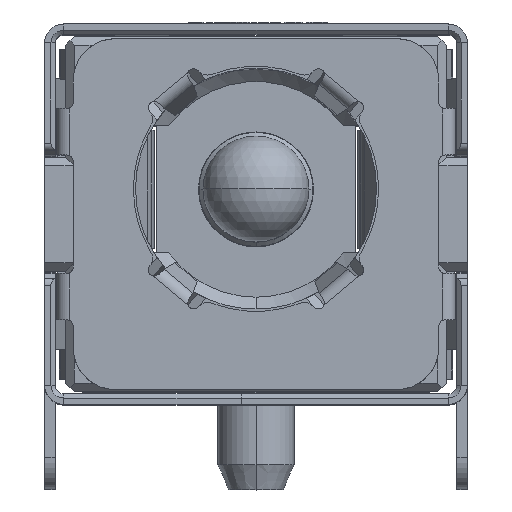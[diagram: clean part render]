
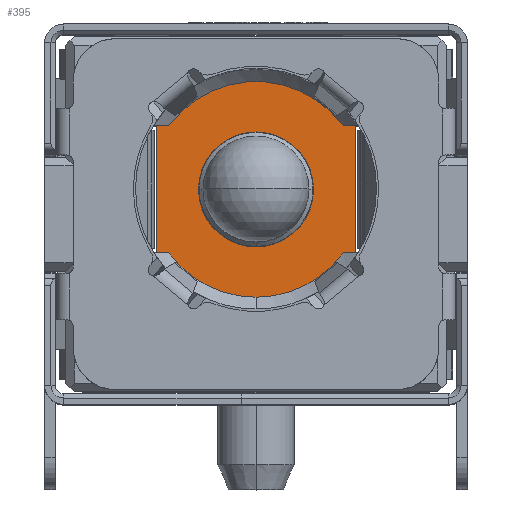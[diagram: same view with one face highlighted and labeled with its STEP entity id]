
A CAD part, top view. The second image highlights one B-rep face of the part: STEP entity #395.
In plain terms, the highlighted planar face has unit normal (0, 0, 1).
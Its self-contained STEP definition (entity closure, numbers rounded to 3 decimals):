
#395 = ADVANCED_FACE ( 'NONE', ( #17485, #45524 ), #24620, .T. ) ;
#982 = VERTEX_POINT ( 'NONE', #16235 ) ;
#1696 = ORIENTED_EDGE ( 'NONE', *, *, #10049, .T. ) ;
#2175 = VERTEX_POINT ( 'NONE', #29098 ) ;
#2736 = VERTEX_POINT ( 'NONE', #7429 ) ;
#3791 = DIRECTION ( 'NONE',  ( 0., 0., -1. ) ) ;
#4372 = CIRCLE ( 'NONE', #5737, 2.55 ) ;
#4809 = VECTOR ( 'NONE', #31012, 1000. ) ;
#5737 = AXIS2_PLACEMENT_3D ( 'NONE', #20131, #44489, #17994 ) ;
#6197 = DIRECTION ( 'NONE',  ( -0.809, 0.588, 0. ) ) ;
#6221 = EDGE_CURVE ( 'NONE', #22057, #14522, #16615, .T. ) ;
#6579 = AXIS2_PLACEMENT_3D ( 'NONE', #38633, #17721, #31736 ) ;
#6641 = ORIENTED_EDGE ( 'NONE', *, *, #40552, .F. ) ;
#6741 = CIRCLE ( 'NONE', #41336, 2.55 ) ;
#7388 = VECTOR ( 'NONE', #31815, 1000. ) ;
#7429 = CARTESIAN_POINT ( 'NONE',  ( 2.35, 1.5, 5.7 ) ) ;
#7814 = ORIENTED_EDGE ( 'NONE', *, *, #8504, .F. ) ;
#8206 = EDGE_CURVE ( 'NONE', #982, #40049, #4372, .T. ) ;
#8329 = CARTESIAN_POINT ( 'NONE',  ( 2.35, -1.5, 5.7 ) ) ;
#8398 = VECTOR ( 'NONE', #11602, 1000. ) ;
#8466 = VERTEX_POINT ( 'NONE', #34035 ) ;
#8504 = EDGE_CURVE ( 'NONE', #44833, #2175, #33646, .T. ) ;
#8632 = EDGE_LOOP ( 'NONE', ( #10745, #27492 ) ) ;
#9340 = ORIENTED_EDGE ( 'NONE', *, *, #26836, .T. ) ;
#10049 = EDGE_CURVE ( 'NONE', #33621, #19167, #10296, .T. ) ;
#10063 = ORIENTED_EDGE ( 'NONE', *, *, #39722, .F. ) ;
#10296 = LINE ( 'NONE', #38570, #29346 ) ;
#10463 = VERTEX_POINT ( 'NONE', #26490 ) ;
#10470 = CARTESIAN_POINT ( 'NONE',  ( 0., 0., 5.7 ) ) ;
#10561 = CARTESIAN_POINT ( 'NONE',  ( -2.35, -1.5, 5.7 ) ) ;
#10676 = CARTESIAN_POINT ( 'NONE',  ( 2.35, 1.5, 5.7 ) ) ;
#10745 = ORIENTED_EDGE ( 'NONE', *, *, #6221, .T. ) ;
#11602 = DIRECTION ( 'NONE',  ( -1., 0., 0. ) ) ;
#13497 = CARTESIAN_POINT ( 'NONE',  ( 2.062, -1.5, 5.7 ) ) ;
#13562 = CARTESIAN_POINT ( 'NONE',  ( 0., 0., 5.7 ) ) ;
#13652 = CIRCLE ( 'NONE', #20258, 1.36 ) ;
#14522 = VERTEX_POINT ( 'NONE', #34128 ) ;
#14629 = EDGE_CURVE ( 'NONE', #44833, #8466, #41467, .T. ) ;
#14918 = CARTESIAN_POINT ( 'NONE',  ( 0., 0., 5.7 ) ) ;
#15379 = ORIENTED_EDGE ( 'NONE', *, *, #14629, .T. ) ;
#15883 = EDGE_CURVE ( 'NONE', #10463, #40049, #17169, .T. ) ;
#16235 = CARTESIAN_POINT ( 'NONE',  ( 0., -2.55, 5.7 ) ) ;
#16615 = CIRCLE ( 'NONE', #39385, 1.36 ) ;
#17169 = LINE ( 'NONE', #31184, #18707 ) ;
#17255 = DIRECTION ( 'NONE',  ( 0., 0., -1. ) ) ;
#17485 = FACE_BOUND ( 'NONE', #8632, .T. ) ;
#17569 = CARTESIAN_POINT ( 'NONE',  ( -2.062, 1.5, 5.7 ) ) ;
#17721 = DIRECTION ( 'NONE',  ( 0., 0., 1. ) ) ;
#17994 = DIRECTION ( 'NONE',  ( 0.809, -0.588, 0. ) ) ;
#18707 = VECTOR ( 'NONE', #45213, 1000. ) ;
#18993 = ORIENTED_EDGE ( 'NONE', *, *, #8206, .F. ) ;
#19167 = VERTEX_POINT ( 'NONE', #8329 ) ;
#19308 = VECTOR ( 'NONE', #24705, 1000. ) ;
#20131 = CARTESIAN_POINT ( 'NONE',  ( 0., 0., 5.7 ) ) ;
#20258 = AXIS2_PLACEMENT_3D ( 'NONE', #14918, #35823, #42954 ) ;
#21199 = CARTESIAN_POINT ( 'NONE',  ( -2.062, -1.5, 5.7 ) ) ;
#22057 = VERTEX_POINT ( 'NONE', #32701 ) ;
#24620 = PLANE ( 'NONE',  #6579 ) ;
#24705 = DIRECTION ( 'NONE',  ( 0., -1., 0. ) ) ;
#26490 = CARTESIAN_POINT ( 'NONE',  ( -2.35, -1.5, 5.7 ) ) ;
#26836 = EDGE_CURVE ( 'NONE', #2736, #2175, #38744, .T. ) ;
#27077 = ORIENTED_EDGE ( 'NONE', *, *, #15883, .T. ) ;
#27492 = ORIENTED_EDGE ( 'NONE', *, *, #33487, .T. ) ;
#28023 = DIRECTION ( 'NONE',  ( 0.809, -0.588, 0. ) ) ;
#28108 = CARTESIAN_POINT ( 'NONE',  ( -2.062, 1.5, 5.7 ) ) ;
#28859 = CARTESIAN_POINT ( 'NONE',  ( 2.35, 1.5, 5.7 ) ) ;
#29098 = CARTESIAN_POINT ( 'NONE',  ( 2.062, 1.5, 5.7 ) ) ;
#29346 = VECTOR ( 'NONE', #30978, 1000. ) ;
#30063 = AXIS2_PLACEMENT_3D ( 'NONE', #13562, #17255, #6197 ) ;
#30435 = EDGE_LOOP ( 'NONE', ( #15379, #33017, #27077, #18993, #6641, #1696, #10063, #9340, #7814 ) ) ;
#30978 = DIRECTION ( 'NONE',  ( 1., 0., 0. ) ) ;
#31012 = DIRECTION ( 'NONE',  ( 0., 1., 0. ) ) ;
#31184 = CARTESIAN_POINT ( 'NONE',  ( -2.35, -1.5, 5.7 ) ) ;
#31619 = DIRECTION ( 'NONE',  ( 0., -1., 0. ) ) ;
#31736 = DIRECTION ( 'NONE',  ( 1., 0., 0. ) ) ;
#31815 = DIRECTION ( 'NONE',  ( -1., 0., 0. ) ) ;
#32701 = CARTESIAN_POINT ( 'NONE',  ( 0., -1.36, 5.7 ) ) ;
#33017 = ORIENTED_EDGE ( 'NONE', *, *, #33283, .F. ) ;
#33283 = EDGE_CURVE ( 'NONE', #10463, #8466, #38605, .T. ) ;
#33487 = EDGE_CURVE ( 'NONE', #14522, #22057, #13652, .T. ) ;
#33621 = VERTEX_POINT ( 'NONE', #13497 ) ;
#33646 = CIRCLE ( 'NONE', #30063, 2.55 ) ;
#34035 = CARTESIAN_POINT ( 'NONE',  ( -2.35, 1.5, 5.7 ) ) ;
#34128 = CARTESIAN_POINT ( 'NONE',  ( 0., 1.36, 5.7 ) ) ;
#35823 = DIRECTION ( 'NONE',  ( 0., 0., -1. ) ) ;
#38134 = CARTESIAN_POINT ( 'NONE',  ( 0., 0., 5.7 ) ) ;
#38570 = CARTESIAN_POINT ( 'NONE',  ( 2.062, -1.5, 5.7 ) ) ;
#38605 = LINE ( 'NONE', #10561, #4809 ) ;
#38633 = CARTESIAN_POINT ( 'NONE',  ( 0., 0., 5.7 ) ) ;
#38744 = LINE ( 'NONE', #28859, #8398 ) ;
#39385 = AXIS2_PLACEMENT_3D ( 'NONE', #10470, #3791, #31619 ) ;
#39722 = EDGE_CURVE ( 'NONE', #2736, #19167, #42166, .T. ) ;
#40049 = VERTEX_POINT ( 'NONE', #21199 ) ;
#40552 = EDGE_CURVE ( 'NONE', #33621, #982, #6741, .T. ) ;
#41336 = AXIS2_PLACEMENT_3D ( 'NONE', #38134, #45276, #28023 ) ;
#41467 = LINE ( 'NONE', #17569, #7388 ) ;
#42166 = LINE ( 'NONE', #10676, #19308 ) ;
#42954 = DIRECTION ( 'NONE',  ( 0., 1., 0. ) ) ;
#44489 = DIRECTION ( 'NONE',  ( 0., 0., -1. ) ) ;
#44833 = VERTEX_POINT ( 'NONE', #28108 ) ;
#45213 = DIRECTION ( 'NONE',  ( 1., 0., 0. ) ) ;
#45276 = DIRECTION ( 'NONE',  ( 0., 0., -1. ) ) ;
#45524 = FACE_OUTER_BOUND ( 'NONE', #30435, .T. ) ;
